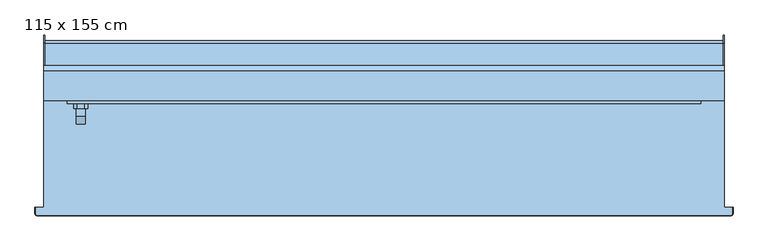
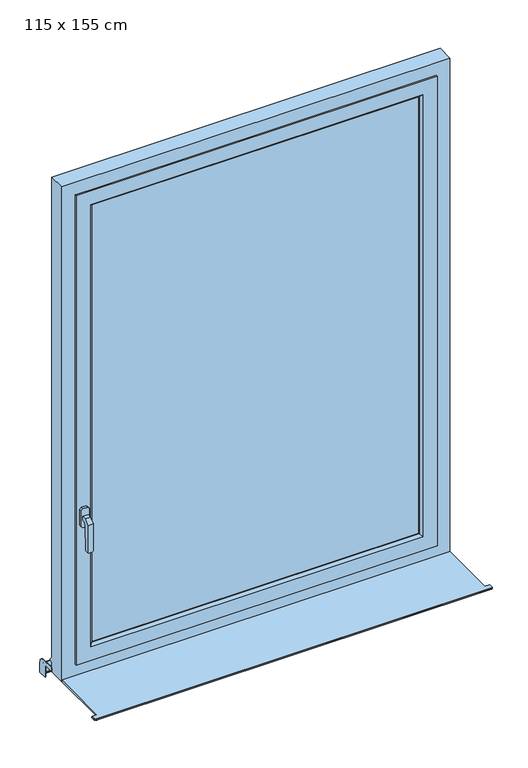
"""IFC4 building model written with IfcOpenShell, lengths in millimetres: window geometry, Fenêtre type 1 : 115 x 155 cm."""

from ifc_helpers import new_model, si_unit, frame, origin, place, context, project, spatial, polyline, circle_curve, outline, extrude, faceted_brep, source, transform, mapped, element, save
from ifc_brep_helpers import plane_surface, cylinder_surface, revolved_surface, advanced_brep


def window_115_x_155_cm_24c5beae(model_context):
    return source(origin(), model_context, "Body", "SolidModel", [
        faceted_brep([(-520.5, 42.0, 1306.0), (-504.5, 42.0, 1306.0), (-504.5, 42.0, 1294.0), (-520.5, 42.0, 1294.0), (-520.5, 29.5147186, 1306.0), (-504.5, 29.5147186, 1306.0), (-504.5, 16.0, 1292.4852814), (-504.5, 16.0, 1208.5355339), (-504.5, 25.2419861, 1208.5355339), (-504.5, 27.9900091, 1287.2286157), (-504.5, 28.0, 1287.5147186), (-504.5, 34.4852814, 1294.0), (-520.5, 34.4852814, 1294.0), (-520.5, 28.0, 1287.5147186), (-520.5, 28.0, 1287.2282668), (-520.5, 25.2419861, 1208.5355339), (-520.5, 16.0, 1208.5355339), (-520.5, 16.0, 1292.4852814), (-508.0355339, 16.0, 1205.0), (-516.9644661, 16.0, 1205.0), (-516.9644661, 25.1185225, 1205.0), (-508.0355339, 25.1185225, 1205.0)], [[[0, 1, 2, 3]], [[1, 0, 4, 5]], [[2, 1, 5, 6, 7, 8, 9, 10, 11]], [[3, 2, 11, 12]], [[0, 3, 12, 13, 14, 15, 16, 17, 4]], [[5, 4, 17, 6]], [[11, 10, 13, 12]], [[18, 19, 20, 21]], [[6, 17, 16, 19, 18, 7]], [[13, 10, 9, 14]], [[14, 9, 8, 21, 20, 15]], [[8, 7, 18, 21]], [[16, 15, 20, 19]]]),
        extrude(outline(polyline([(1330.0, -519.5), (1325.0, -524.5), (1275.0, -524.5), (1270.0, -519.5), (1270.0, -505.5), (1275.0, -500.5), (1325.0, -500.5), (1330.0, -505.5), (1330.0, -519.5)])), frame((0.0, 42.0, 0.0), z_axis=(0.0, 1.0, 0.0), x_axis=(0.0, 0.0, 1.0)), (0.0, 0.0, 1.0), 8.0),
        advanced_brep(
        [(-575.0, 140.0, 762.0), (-575.0, 140.0, 799.2138833), (-575.0, 105.0, 801.0481556), (-575.0, 105.0, 812.5639376), (-575.0, 152.2850393, 810.0858337), (-575.0, 166.5, 795.1063906), (-575.0, 166.5, 762.0), (575.0, 140.0, 799.2138833), (575.0, 140.0, 762.0), (575.0, 166.5, 762.0), (575.0, 166.5, 795.1063906), (575.0, 152.2850393, 810.0858337), (575.0, 105.0, 812.5639376), (575.0, 105.0, 801.0481556), (-573.0, 105.0, 812.5639376), (573.0, 105.0, 812.5639376), (573.0, 105.0, 802.5502141), (-573.0, 105.0, 802.5502141), (-573.0, 151.7616798, 800.0995383), (573.0, 151.7616798, 800.0995383), (573.0, 156.5, 795.1063906), (573.0, 156.5, 762.0), (-573.0, 156.5, 762.0), (-573.0, 156.5, 795.1063906), (-573.0, 155.0, 762.0), (-573.0, 140.0, 762.0), (-573.0, 166.5, 762.0), (573.0, 166.5, 762.0), (573.0, 140.0, 762.0), (573.0, 155.0, 762.0), (-573.0, 145.0, 772.0), (573.0, 145.0, 772.0), (-573.0, 146.0606602, 773.0606602), (573.0, 146.0606602, 773.0606602), (-573.0, 155.0, 764.1213203), (573.0, 155.0, 764.1213203), (-573.0, 155.0, 795.0728058), (573.0, 155.0, 795.0728058), (-573.0, 140.0, 799.2138833), (-573.0, 151.649637, 798.6033517), (573.0, 151.649637, 798.6033517), (573.0, 140.0, 799.2138833), (573.0, 152.2850393, 810.0858337), (573.0, 166.5, 795.1063906), (-573.0, 166.5, 795.1063906), (-573.0, 152.2850393, 810.0858337)],
        [
            (0, 1),
            (1, 2),
            (2, 3),
            (3, 4),
            (4, 5, circle_curve(frame((-575.0, 151.5, 795.1063906), z_axis=(-1.0, 0.0, 0.0), x_axis=(0.0, 0.05233595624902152, 0.9986295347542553)), 15.0)),
            (5, 6),
            (6, 0),
            (7, 8),
            (8, 9),
            (9, 10),
            (10, 11, circle_curve(frame((575.0, 151.5, 795.1063906), z_axis=(1.0, 0.0, 0.0), x_axis=(0.0, 1.0, 0.0)), 15.0)),
            (11, 12),
            (12, 13),
            (13, 7),
            (14, 3),
            (2, 13),
            (12, 15),
            (15, 16),
            (16, 17),
            (17, 14),
            (18, 17),
            (16, 19),
            (19, 18),
            (20, 21),
            (21, 22),
            (22, 23),
            (23, 20),
            (24, 25),
            (25, 0),
            (6, 26),
            (26, 22),
            (21, 27),
            (27, 9),
            (8, 28),
            (28, 29),
            (29, 24),
            (30, 24),
            (29, 31),
            (31, 30),
            (32, 30),
            (31, 33),
            (33, 32),
            (34, 32),
            (33, 35),
            (35, 34),
            (36, 34),
            (35, 37),
            (37, 36),
            (38, 39),
            (39, 40),
            (40, 41),
            (41, 7),
            (1, 38),
            (38, 25),
            (36, 39, circle_curve(frame((-573.0, 151.4646089, 795.0728058), z_axis=(1.0, 0.0, 0.0), x_axis=(0.0, -1.0, 0.0)), 3.5353911)),
            (28, 41),
            (40, 37, circle_curve(frame((573.0, 151.4646089, 795.0728058), z_axis=(-1.0, 0.0, 0.0), x_axis=(0.0, -1.0, 0.0)), 3.5353911)),
            (19, 20, circle_curve(frame((573.0, 151.5, 795.1063906), z_axis=(-1.0, 0.0, 0.0), x_axis=(0.0, -1.0, 0.0)), 5.0)),
            (23, 18, circle_curve(frame((-573.0, 151.5, 795.1063906), z_axis=(1.0, 0.0, 0.0), x_axis=(0.0, -1.0, 0.0)), 5.0)),
            (15, 42),
            (42, 43, circle_curve(frame((573.0, 151.5, 795.1063906), z_axis=(-1.0, 0.0, 0.0), x_axis=(0.0, 1.0, 0.0)), 15.0)),
            (43, 27),
            (43, 10),
            (42, 11),
            (26, 44),
            (44, 45, circle_curve(frame((-573.0, 151.5, 795.1063906), z_axis=(1.0, 0.0, 0.0), x_axis=(0.0, 0.05233595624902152, 0.9986295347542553)), 15.0)),
            (45, 14),
            (45, 4),
            (44, 5),
        ],
        [
            plane_surface(frame((-575.0, 105.0, 801.0481556), z_axis=(-1.0, 0.0, 0.0), x_axis=(0.0, 0.0, 1.0))),
            plane_surface(frame((575.0, 105.0, 801.0481556), z_axis=(1.0, 0.0, 0.0), x_axis=(0.0, 0.0, -1.0))),
            plane_surface(frame((-575.0, 105.0, 801.0481556), z_axis=(0.0, -1.0, 0.0), x_axis=(1.0, 0.0, 0.0))),
            plane_surface(frame((-575.0, 105.0, 802.5502141), z_axis=(0.0, 0.0523359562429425, 0.9986295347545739), x_axis=(1.0, 0.0, 0.0))),
            plane_surface(frame((-575.0, 156.5, 795.1063906), z_axis=(0.0, 1.0, 0.0), x_axis=(1.0, 0.0, 0.0))),
            plane_surface(frame((-575.0, 156.5, 762.0), z_axis=(0.0, 0.0, -1.0), x_axis=(1.0, 0.0, 0.0))),
            plane_surface(frame((-575.0, 155.0, 762.0), z_axis=(0.0, -0.7071067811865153, -0.7071067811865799), x_axis=(1.0, 0.0, 0.0))),
            plane_surface(frame((-575.0, 145.0, 772.0), z_axis=(0.0, -0.7071067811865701, 0.707106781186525), x_axis=(1.0, 0.0, 0.0))),
            plane_surface(frame((-575.0, 146.0606602, 773.0606602), z_axis=(0.0, 0.7071067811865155, 0.7071067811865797), x_axis=(1.0, 0.0, 0.0))),
            plane_surface(frame((-575.0, 155.0, 764.1213203), z_axis=(0.0, -1.0, 0.0), x_axis=(1.0, 0.0, 0.0))),
            plane_surface(frame((-575.0, 151.649637, 798.6033517), z_axis=(0.0, -0.05233595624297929, -0.9986295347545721), x_axis=(1.0, 0.0, 0.0))),
            plane_surface(frame((-573.0, 155.0, 798.4277666), z_axis=(1.0, 0.0, 0.0), x_axis=(0.0, -0.9986295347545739, 0.05233595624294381))),
            plane_surface(frame((-575.0, 140.0, 762.0), z_axis=(0.0, -1.0, 0.0), x_axis=(1.0, 0.0, 0.0))),
            plane_surface(frame((573.0, 155.0, 798.4277666), z_axis=(-1.0, 0.0, 0.0), x_axis=(0.0, 0.0, -1.0))),
            plane_surface(frame((573.0, 140.0, 762.0), z_axis=(0.0, -1.0, 0.0), x_axis=(1.0, 0.0, 0.0))),
            cylinder_surface(frame((575.0, 151.5, 795.1063906), z_axis=(-1.0, 0.0, 0.0), x_axis=(0.0, -1.0, 0.0)), 5.0),
            revolved_surface(polyline([(573.0, 147.9292178, 795.0728058), (-573.0, 147.9292178, 795.0728058)]), (575.0, 151.4646089, 795.0728058), (1.0, 0.0, 0.0)),
            plane_surface(frame((573.0, 156.5, 762.0), z_axis=(-1.0, 0.0, 0.0), x_axis=(0.0, 0.0, 1.0))),
            plane_surface(frame((573.0, 166.5, 762.0), z_axis=(0.0, 1.0, 0.0), x_axis=(0.0, 0.0, 1.0))),
            cylinder_surface(frame((575.0, 151.5, 795.1063906), z_axis=(1.0, 0.0, 0.0), x_axis=(0.0, 1.0, 0.0)), 15.0),
            plane_surface(frame((573.0, 152.2850393, 810.0858337), z_axis=(0.0, 0.05233595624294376, 0.9986295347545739), x_axis=(0.0, -0.9986295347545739, 0.05233595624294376))),
            plane_surface(frame((-573.0, 105.0, 812.5639376), z_axis=(1.0, 0.0, 0.0), x_axis=(0.0, -0.9986295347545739, 0.05233595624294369))),
            plane_surface(frame((-575.0, 105.0, 812.5639376), z_axis=(0.0, 0.05233595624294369, 0.9986295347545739), x_axis=(1.0, 0.0, 0.0))),
            cylinder_surface(frame((-575.0, 151.5, 795.1063906), z_axis=(-1.0, 0.0, 0.0), x_axis=(0.0, 0.05233595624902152, 0.9986295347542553)), 15.0),
            plane_surface(frame((-573.0, 166.5, 795.1063906), z_axis=(0.0, 1.0, 0.0), x_axis=(0.0, 0.0, -1.0))),
        ],
        [
            (0, [[1, 2, 3, 4, 5, 6, 7]]),
            (1, [[8, 9, 10, 11, 12, 13, 14]]),
            (2, [[15, -3, 16, -13, 17, 18, 19, 20]]),
            (3, [[21, -19, 22, 23]]),
            (4, [[24, 25, 26, 27]]),
            (5, [[28, 29, -7, 30, 31, -25, 32, 33, -9, 34, 35, 36]]),
            (6, [[37, -36, 38, 39]]),
            (7, [[40, -39, 41, 42]]),
            (8, [[43, -42, 44, 45]]),
            (9, [[46, -45, 47, 48]]),
            (10, [[49, 50, 51, 52, -14, -16, -2, 53]]),
            (11, [[54, -28, -37, -40, -43, -46, 55, -49]]),
            (12, [[-54, -53, -1, -29]]),
            (13, [[-35, 56, -51, 57, -47, -44, -41, -38]]),
            (14, [[-56, -34, -8, -52]]),
            (15, [[58, -27, 59, -23]]),
            (16, [[-55, -48, -57, -50]]),
            (17, [[-32, -24, -58, -22, -18, 60, 61, 62]]),
            (18, [[-33, -62, 63, -10]]),
            (19, [[-11, -63, -61, 64]]),
            (20, [[-64, -60, -17, -12]]),
            (21, [[-20, -21, -59, -26, -31, 65, 66, 67]]),
            (22, [[-4, -15, -67, 68]]),
            (23, [[-5, -68, -66, 69]]),
            (24, [[-6, -69, -65, -30]]),
        ],
    ),
        faceted_brep([(-535.0, 50.0, 840.0), (-535.0, 90.0, 840.0), (535.0, 90.0, 840.0), (535.0, 50.0, 840.0), (535.0, 90.0, 2310.0), (535.0, 50.0, 2310.0), (-535.0, 90.0, 2310.0), (492.0710678, 90.0, 2267.0710678), (-492.0710678, 90.0, 2267.0710678), (-492.0710678, 90.0, 882.9289322), (492.0710678, 90.0, 882.9289322), (-535.0, 50.0, 2310.0), (492.0710678, 50.0, 882.9289322), (-492.0710678, 50.0, 882.9289322), (-492.0710678, 50.0, 2267.0710678), (492.0710678, 50.0, 2267.0710678), (-485.0, 57.0710678, 890.0), (485.0, 57.0710678, 890.0), (485.0, 57.0710678, 2260.0), (485.0, 82.9289322, 890.0), (485.0, 82.9289322, 2260.0), (-485.0, 82.9289322, 890.0), (-485.0, 57.0710678, 2260.0), (-485.0, 82.9289322, 2260.0)], [[[0, 1, 2, 3]], [[3, 2, 4, 5]], [[2, 1, 6, 4], [7, 8, 9, 10]], [[5, 11, 0, 3], [12, 13, 14, 15]], [[16, 13, 12, 17]], [[17, 12, 15, 18]], [[19, 17, 18, 20]], [[9, 21, 19, 10]], [[10, 19, 20, 7]], [[11, 6, 1, 0]], [[22, 14, 13, 16]], [[23, 22, 16, 21]], [[8, 23, 21, 9]], [[21, 16, 17, 19]], [[5, 4, 6, 11]], [[18, 15, 14, 22]], [[7, 20, 23, 8]], [[20, 18, 22, 23]]]),
        faceted_brep([(575.0, 105.0, 800.0), (575.0, 105.0, 830.0), (575.0, 115.0, 830.0), (575.0, 115.0, 835.0), (575.0, 105.0, 845.0), (575.0, 105.0, 2350.0), (575.0, 55.0, 2350.0), (575.0, 55.0, 800.0), (-575.0, 105.0, 800.0), (-575.0, 105.0, 830.0), (-575.0, 115.0, 830.0), (-575.0, 115.0, 835.0), (-575.0, 105.0, 845.0), (-530.0, 105.0, 845.0), (-525.0, 100.0, 850.0), (525.0, 100.0, 850.0), (530.0, 105.0, 845.0), (-575.0, 105.0, 2350.0), (530.0, 105.0, 2305.0), (-530.0, 105.0, 2305.0), (-575.0, 55.0, 2350.0), (-575.0, 55.0, 800.0), (535.0, 55.0, 840.0), (-535.0, 55.0, 840.0), (-535.0, 55.0, 2310.0), (535.0, 55.0, 2310.0), (535.0, 90.0, 840.0), (-535.0, 90.0, 840.0), (-535.0, 90.0, 2310.0), (535.0, 90.0, 2310.0), (525.0, 90.0, 850.0), (-525.0, 90.0, 850.0), (-525.0, 90.0, 2300.0), (525.0, 90.0, 2300.0), (-525.0, 100.0, 2300.0), (525.0, 100.0, 2300.0)], [[[0, 1, 2, 3, 4, 5, 6, 7]], [[1, 0, 8, 9]], [[2, 1, 9, 10]], [[3, 2, 10, 11]], [[3, 11, 12, 13, 14, 15, 16, 4]], [[17, 5, 4, 16, 18, 19, 13, 12]], [[7, 6, 20, 21], [22, 23, 24, 25]], [[0, 7, 21, 8]], [[8, 21, 20, 17, 12, 11, 10, 9]], [[23, 22, 26, 27]], [[27, 28, 24, 23]], [[22, 25, 29, 26]], [[29, 28, 27, 26], [30, 31, 32, 33]], [[31, 30, 15, 14]], [[34, 32, 31, 14]], [[33, 35, 15, 30]], [[35, 18, 16, 15]], [[19, 34, 14, 13]], [[5, 17, 20, 6]], [[28, 29, 25, 24]], [[33, 32, 34, 35]], [[19, 18, 35, 34]]]),
        extrude(outline(polyline([(-485.0, 60.0), (-485.0, 80.0), (485.0, 80.0), (485.0, 60.0), (-485.0, 60.0)])), frame((0.0, 0.0, 890.0), z_axis=(0.0, 0.0, 1.0), x_axis=(1.0, 0.0, 0.0)), (0.0, 0.0, 1.0), 1370.0),
        advanced_brep(
        [(575.0, -125.0, 805.0), (575.0, 55.0, 805.0), (-575.0, 55.0, 805.0), (-575.0, -125.0, 805.0), (-588.9971508, -125.0, 805.0), (-588.9971508, -135.0, 805.0), (-585.0, -138.9971508, 805.0), (585.0, -138.9971508, 805.0), (588.9971508, -135.0, 805.0), (588.9971508, -125.0, 805.0), (-575.0, -125.0, 800.0), (-575.0, 55.0, 800.0), (575.0, 55.0, 800.0), (575.0, -125.0, 800.0), (588.9971508, -125.0, 800.0), (588.9971508, -135.0, 800.0), (585.0, -138.9971508, 800.0), (-585.0, -138.9971508, 800.0), (-588.9971508, -135.0, 800.0), (-588.9971508, -125.0, 800.0), (-590.0, -135.0, 801.0028492), (-590.0, -135.0, 803.9971508), (-590.0, -125.0, 803.9971508), (-590.0, -125.0, 801.0028492), (590.0, -125.0, 803.9971508), (590.0, -125.0, 801.0028492), (590.0, -135.0, 803.9971508), (590.0, -135.0, 801.0028492), (585.0, -140.0, 801.0028492), (585.0, -140.0, 803.9971508), (-585.0, -140.0, 803.9971508), (-585.0, -140.0, 801.0028492)],
        [
            (0, 1),
            (1, 2),
            (2, 3),
            (3, 4),
            (4, 5),
            (5, 6, circle_curve(frame((-585.0, -135.0, 805.0), z_axis=(0.0, 0.0, 1.0), x_axis=(-1.0, 0.0, 0.0)), 3.9971508)),
            (6, 7),
            (7, 8, circle_curve(frame((585.0, -135.0, 805.0), z_axis=(0.0, 0.0, 1.0), x_axis=(0.0, -1.0, 0.0)), 3.9971508)),
            (8, 9),
            (9, 0),
            (10, 11),
            (11, 12),
            (12, 13),
            (13, 14),
            (14, 15),
            (15, 16, circle_curve(frame((585.0, -135.0, 800.0), z_axis=(0.0, 0.0, -1.0), x_axis=(0.0, -1.0, 0.0)), 3.9971508)),
            (16, 17),
            (17, 18, circle_curve(frame((-585.0, -135.0, 800.0), z_axis=(0.0, 0.0, -1.0), x_axis=(-1.0, 0.0, 0.0)), 3.9971508)),
            (18, 19),
            (19, 10),
            (20, 21),
            (21, 22),
            (22, 23),
            (23, 20),
            (3, 10),
            (19, 23),
            (22, 4),
            (2, 11),
            (1, 12),
            (0, 13),
            (9, 24),
            (24, 25),
            (25, 14),
            (24, 26),
            (26, 27),
            (27, 25),
            (28, 29),
            (29, 30),
            (30, 31),
            (31, 28),
            (28, 27, circle_curve(frame((585.0, -135.0, 801.0028492), z_axis=(0.0, 0.0, 1.0), x_axis=(0.0, -1.0, 0.0)), 5.0)),
            (26, 29, circle_curve(frame((585.0, -135.0, 803.9971508), z_axis=(0.0, 0.0, -1.0), x_axis=(0.0, -1.0, 0.0)), 5.0)),
            (20, 31, circle_curve(frame((-585.0, -135.0, 801.0028492), z_axis=(0.0, 0.0, 1.0), x_axis=(0.0, -1.0, 0.0)), 5.0)),
            (30, 21, circle_curve(frame((-585.0, -135.0, 803.9971508), z_axis=(0.0, 0.0, -1.0), x_axis=(0.0, -1.0, 0.0)), 5.0)),
            (21, 5),
            (18, 20),
            (30, 6),
            (17, 31),
            (29, 7),
            (16, 28),
            (26, 8),
            (15, 27),
        ],
        [
            plane_surface(frame((-590.0, -125.0, 805.0), z_axis=(0.0, 0.0, 1.0), x_axis=(0.0, -1.0, 0.0))),
            plane_surface(frame((-590.0, -125.0, 800.0), z_axis=(0.0, 0.0, -1.0), x_axis=(0.0, 1.0, 0.0))),
            plane_surface(frame((-590.0, -135.0, 800.0), z_axis=(-1.0, 0.0, 0.0), x_axis=(0.0, 0.0, 1.0))),
            plane_surface(frame((-590.0, -125.0, 800.0), z_axis=(0.0, 1.0, 0.0), x_axis=(0.0, 0.0, 1.0))),
            plane_surface(frame((-575.0, -125.0, 800.0), z_axis=(-1.0, 0.0, 0.0), x_axis=(0.0, 0.0, 1.0))),
            plane_surface(frame((-575.0, 55.0, 800.0), z_axis=(0.0, 1.0, 0.0), x_axis=(0.0, 0.0, 1.0))),
            plane_surface(frame((575.0, 55.0, 800.0), z_axis=(1.0, 0.0, 0.0), x_axis=(0.0, 0.0, 1.0))),
            plane_surface(frame((575.0, -125.0, 800.0), z_axis=(0.0, 1.0, 0.0), x_axis=(0.0, 0.0, 1.0))),
            plane_surface(frame((590.0, -125.0, 800.0), z_axis=(1.0, 0.0, 0.0), x_axis=(0.0, 0.0, 1.0))),
            plane_surface(frame((585.0, -140.0, 800.0), z_axis=(0.0, -1.0, 0.0), x_axis=(0.0, 0.0, 1.0))),
            cylinder_surface(frame((585.0, -135.0, 805.0), z_axis=(0.0, 0.0, -1.0), x_axis=(0.0, -1.0, 0.0)), 5.0),
            cylinder_surface(frame((-585.0, -135.0, 805.0), z_axis=(0.0, 0.0, -1.0), x_axis=(0.0, -1.0, 0.0)), 5.0),
            plane_surface(frame((-588.9971508, -125.0, 805.0), z_axis=(-0.7071067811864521, 0.0, 0.707106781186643), x_axis=(0.0, -1.0, 0.0))),
            plane_surface(frame((-590.0, -125.0, 801.0028492), z_axis=(-0.7071067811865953, 0.0, -0.7071067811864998), x_axis=(0.0, -1.0, 0.0))),
            revolved_surface(polyline([(-590.0, -135.0, 803.9971508), (-588.9971508, -135.0, 805.0)]), (-585.0, -135.0, 805.0), (0.0, 0.0, 1.0)),
            revolved_surface(polyline([(-588.9971508, -135.0, 800.0), (-590.0, -135.0, 801.0028492)]), (-585.0, -135.0, 805.0), (0.0, 0.0, 1.0)),
            plane_surface(frame((-585.0, -138.9971508, 805.0), z_axis=(0.0, -0.7071067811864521, 0.707106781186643), x_axis=(1.0, 0.0, 0.0))),
            plane_surface(frame((-585.0, -140.0, 801.0028492), z_axis=(0.0, -0.7071067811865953, -0.7071067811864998), x_axis=(1.0, 0.0, 0.0))),
            revolved_surface(polyline([(585.0, -140.0, 803.9971508), (585.0, -138.9971508, 805.0)]), (585.0, -135.0, 805.0), (0.0, 0.0, 1.0)),
            revolved_surface(polyline([(585.0, -138.9971508, 800.0), (585.0, -140.0, 801.0028492)]), (585.0, -135.0, 805.0), (0.0, 0.0, 1.0)),
            plane_surface(frame((588.9971508, -135.0, 805.0), z_axis=(0.7071067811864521, 0.0, 0.707106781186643), x_axis=(0.0, 1.0, 0.0))),
            plane_surface(frame((590.0, -135.0, 801.0028492), z_axis=(0.7071067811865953, 0.0, -0.7071067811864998), x_axis=(0.0, 1.0, 0.0))),
        ],
        [
            (0, [[1, 2, 3, 4, 5, 6, 7, 8, 9, 10]]),
            (1, [[11, 12, 13, 14, 15, 16, 17, 18, 19, 20]]),
            (2, [[21, 22, 23, 24]]),
            (3, [[25, -20, 26, -23, 27, -4]]),
            (4, [[-3, 28, -11, -25]]),
            (5, [[-2, 29, -12, -28]]),
            (6, [[-1, 30, -13, -29]]),
            (7, [[-30, -10, 31, 32, 33, -14]]),
            (8, [[-32, 34, 35, 36]]),
            (9, [[37, 38, 39, 40]]),
            (10, [[-37, 41, -35, 42]]),
            (11, [[-21, 43, -39, 44]]),
            (12, [[45, -5, -27, -22]]),
            (13, [[46, -24, -26, -19]]),
            (14, [[-45, -44, 47, -6]]),
            (15, [[-46, -18, 48, -43]]),
            (16, [[-47, -38, 49, -7]]),
            (17, [[-48, -17, 50, -40]]),
            (18, [[-49, -42, 51, -8]]),
            (19, [[-50, -16, 52, -41]]),
            (20, [[-51, -34, -31, -9]]),
            (21, [[-52, -15, -33, -36]]),
        ],
    ),
    ])


if __name__ == "__main__":
    model = new_model("IFC4")
    model_context = context("Model", 3, world=origin())
    ifc_project = project(units=[si_unit("LENGTHUNIT", "METRE", prefix="MILLI")], contexts=[model_context])
    site = spatial("IfcSite", under=ifc_project)
    building = spatial("IfcBuilding", under=site)
    placement = place(None, origin())
    window_115_x_155_cm_shape = window_115_x_155_cm_24c5beae(model_context)
    element("IfcWindow", 1, ObjectType="Fenêtre type 1 : 115 x 155 cm", at=placement, inside=building, context=model_context, shape_type="MappedRepresentation", body=[
        mapped(window_115_x_155_cm_shape, transform((0.0, 0.0, 0.0), x_axis=(1.0, 0.0, 0.0), y_axis=(0.0, 1.0, 0.0), z_axis=(0.0, 0.0, 1.0))),
    ])
    save(model, "model.ifc")
